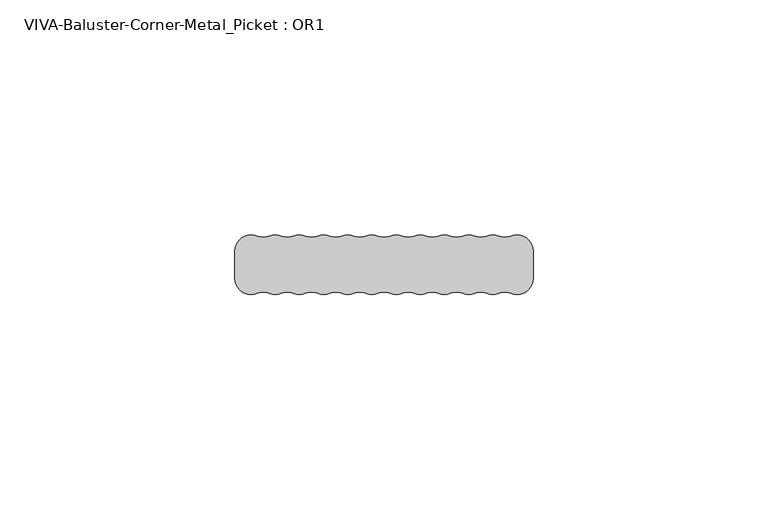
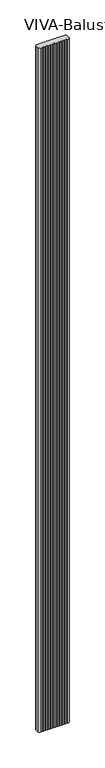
"""IFC4 building model written with IfcOpenShell, lengths in millimetres: railing geometry, VIVA-Baluster-Corner-Metal_Picket : OR1."""

import ifcopenshell
import ifcopenshell.guid

model = None  # the IFC model being written
_history = None  # IfcOwnerHistory: only IFC2X3 demands one
_inside = {}  # id of a spatial element -> (the spatial element, [elements in it])
_under = {}  # id of a project, library or spatial element -> (it, [spatial elements below it])
_declared = {}  # id of a project -> (the project, [libraries it declares])
_typed = {}  # id of a type object -> (the type object, [elements of that type])
_made_of = {}  # id of a material, layer set ... -> (it, [elements and type objects made of it])


def new_model(schema):
    """Start an empty IFC model of exactly this schema.

    Asked for "IFC4X3", IfcOpenShell would pick the latest addendum, in which some entities
    have other attributes; the version numbers below select the first issue.
    IFC2X3 requires an IfcOwnerHistory on every rooted entity: one is made here for all.
    """
    global model, _history
    if schema == "IFC4X3":
        model = ifcopenshell.file(schema_version=(4, 3, 0, 0))
    else:
        model = ifcopenshell.file(schema=schema)
    _inside.clear()
    _under.clear()
    _declared.clear()
    _typed.clear()
    _made_of.clear()
    _history = None
    if model.schema == "IFC2X3":
        org = make("IfcOrganization", Name="unknown")
        user = make(
            "IfcPersonAndOrganization",
            ThePerson=make("IfcPerson", FamilyName="unknown"),
            TheOrganization=org,
        )
        app = make(
            "IfcApplication",
            ApplicationDeveloper=org,
            Version="unknown",
            ApplicationFullName="unknown",
            ApplicationIdentifier="unknown",
        )
        _history = make(
            "IfcOwnerHistory",
            OwningUser=user,
            OwningApplication=app,
            ChangeAction="ADDED",
            CreationDate=0,
        )
    return model


def make(cls, **values):
    """One entity of the class cls with the attributes given. An attribute that is None is left unset."""
    return model.create_entity(
        cls, **{name: value for name, value in values.items() if value is not None}
    )


def rooted(cls, **values):
    """An entity with a GlobalId (a new one), such as an element, a storey or a relation."""
    return make(cls, GlobalId=ifcopenshell.guid.new(), OwnerHistory=_history, **values)


def si_unit(unit_type, name, prefix=None):
    """IfcSIUnit, for example si_unit("LENGTHUNIT", "METRE", prefix="MILLI")."""
    return make("IfcSIUnit", UnitType=unit_type, Prefix=prefix, Name=name)


def assignment(units):
    """IfcUnitAssignment: the units of a project."""
    return None if units is None else make("IfcUnitAssignment", Units=units)


def point(xyz):
    """IfcCartesianPoint."""
    return None if xyz is None else make("IfcCartesianPoint", Coordinates=xyz)


def direction(xyz):
    """IfcDirection."""
    return None if xyz is None else make("IfcDirection", DirectionRatios=xyz)


def frame(location, z_axis=None, x_axis=None):
    """IfcAxis2Placement3D, a coordinate frame: its origin and axes. An axis left out is left unset."""
    return make(
        "IfcAxis2Placement3D",
        Location=point(location),
        Axis=direction(z_axis),
        RefDirection=direction(x_axis),
    )


def origin():
    """The frame at (0, 0, 0) with its axes left unset."""
    return frame((0.0, 0.0, 0.0))


def place(relative_to, where):
    """IfcLocalPlacement: puts the frame where relative to a parent placement (None: the world)."""
    return make(
        "IfcLocalPlacement", PlacementRelTo=relative_to, RelativePlacement=where
    )


def context(
    kind, dimensions, precision=None, world=None, true_north=None, identifier=None
):
    """IfcGeometricRepresentationContext, for example the 3D "Model" context."""
    return make(
        "IfcGeometricRepresentationContext",
        ContextIdentifier=identifier,
        ContextType=kind,
        CoordinateSpaceDimension=dimensions,
        Precision=precision,
        WorldCoordinateSystem=world,
        TrueNorth=true_north,
    )


def project(units=None, contexts=None):
    """IfcProject with its units and contexts."""
    return rooted(
        "IfcProject",
        Name="project",
        RepresentationContexts=contexts,
        UnitsInContext=assignment(units),
    )


def spatial(cls, under=None, at=None, **own):
    """A site, building, storey or space (cls), placed at a placement, below another one or the project."""
    s = rooted(cls, ObjectPlacement=at, **own)
    if under is not None:
        _under.setdefault(under.id(), (under, []))[1].append(s)
    return s


def polyline(points):
    """IfcPolyline through the points."""
    return make("IfcPolyline", Points=[point(p) for p in points])


def circle_curve(where, radius):
    """IfcCircle in the frame where."""
    return make("IfcCircle", Position=where, Radius=radius)


def shape(context_of_items, identifier, shape_type, items):
    """IfcShapeRepresentation: the items that make up one representation, for example the "Body"."""
    return make(
        "IfcShapeRepresentation",
        ContextOfItems=context_of_items,
        RepresentationIdentifier=identifier,
        RepresentationType=shape_type,
        Items=items,
    )


def source(mapping_origin, context_of_items, identifier, shape_type, items):
    """IfcRepresentationMap: a shape defined once, which mapped items show again and again."""
    return make(
        "IfcRepresentationMap",
        MappingOrigin=mapping_origin,
        MappedRepresentation=shape(context_of_items, identifier, shape_type, items),
    )


def transform(
    local_origin,
    x_axis=None,
    y_axis=None,
    z_axis=None,
    scale=None,
    scale2=None,
    scale3=None,
    uniform=True,
):
    """IfcCartesianTransformationOperator3D, or its non-uniform kind. x_axis, y_axis, z_axis: its Axis1, 2, 3."""
    if uniform:
        return make(
            "IfcCartesianTransformationOperator3D",
            Axis1=direction(x_axis),
            Axis2=direction(y_axis),
            LocalOrigin=point(local_origin),
            Scale=scale,
            Axis3=direction(z_axis),
        )
    return make(
        "IfcCartesianTransformationOperator3DnonUniform",
        Axis1=direction(x_axis),
        Axis2=direction(y_axis),
        LocalOrigin=point(local_origin),
        Scale=scale,
        Axis3=direction(z_axis),
        Scale2=scale2,
        Scale3=scale3,
    )


def mapped(mapping_source, mapping_target):
    """IfcMappedItem: shows the shape of a source again, moved by a transform."""
    return make(
        "IfcMappedItem", MappingSource=mapping_source, MappingTarget=mapping_target
    )


def made_of(thing, what):
    """Note that an element or type object is made of a material, layer set ...; save() writes the relation."""
    if what is not None:
        _made_of.setdefault(what.id(), (what, []))[1].append(thing)
    return thing


def element(
    cls,
    number,
    at=None,
    inside=None,
    cuts=None,
    type_object=None,
    material=None,
    context=None,
    identifier="Body",
    shape_type=None,
    held_by="IfcProductDefinitionShape",
    body=None,
    shapes=None,
    **own,
):
    """One element of the class cls, such as IfcWall. Its Tag is "e" and its number.

    at: its placement. inside: the storey or other place that contains it. cuts: it is an
    opening in that element (IfcRelVoidsElement). A single representation is given by context,
    identifier, shape_type and body (its items); several are given by shapes. held_by: the class
    of the entity that holds the representations. save() writes the other relations.
    """
    e = rooted(cls, Tag="e%d" % number, ObjectPlacement=at, **own)
    if body is not None:
        shapes = [shape(context, identifier, shape_type, body)]
    if shapes is not None:
        e.Representation = make(held_by, Representations=shapes)
    if inside is not None:
        _inside.setdefault(inside.id(), (inside, []))[1].append(e)
    if cuts is not None:
        rooted(
            "IfcRelVoidsElement", RelatingBuildingElement=cuts, RelatedOpeningElement=e
        )
    if type_object is not None:
        _typed.setdefault(type_object.id(), (type_object, []))[1].append(e)
    return made_of(e, material)


def aggregate(whole, parts):
    """IfcRelAggregates: a whole, such as a stair, and the parts it consists of."""
    return rooted("IfcRelAggregates", RelatingObject=whole, RelatedObjects=parts)


def save(model, path):
    """Write the relations noted so far, then the file.

    IfcRelAggregates (storeys below a building ...), IfcRelContainedInSpatialStructure (elements
    in a storey), IfcRelDefinesByType, IfcRelAssociatesMaterial and IfcRelDeclares: one each for
    every whole, place, type object, material and project.
    """
    for whole, parts in _under.values():
        aggregate(whole, parts)
    for where, things in _inside.values():
        rooted(
            "IfcRelContainedInSpatialStructure",
            RelatedElements=things,
            RelatingStructure=where,
        )
    for kind, things in _typed.values():
        rooted("IfcRelDefinesByType", RelatedObjects=things, RelatingType=kind)
    for what, things in _made_of.values():
        rooted("IfcRelAssociatesMaterial", RelatedObjects=things, RelatingMaterial=what)
    for by, libraries in _declared.values():
        rooted("IfcRelDeclares", RelatingContext=by, RelatedDefinitions=libraries)
    model.write(path)


def plane_surface(at):
    """IfcPlane: the flat surface through the origin of the frame at, square to its z axis."""
    return make("IfcPlane", Position=at)


def cylinder_surface(at, radius):
    """IfcCylindricalSurface: all points at the distance radius from the z axis of the frame at."""
    return make("IfcCylindricalSurface", Position=at, Radius=radius)


def revolved_surface(curve, axis_point, axis_direction):
    """IfcSurfaceOfRevolution: the curve turned about the line through axis_point along axis_direction."""
    return make(
        "IfcSurfaceOfRevolution",
        SweptCurve=make("IfcArbitraryOpenProfileDef", ProfileType="CURVE", Curve=curve),
        AxisPosition=make("IfcAxis1Placement", Location=point(axis_point), Axis=direction(axis_direction)),
    )


def advanced_brep(points, edges, surfaces, faces):
    """IfcAdvancedBrep: a solid bounded by faces that lie on surfaces and meet in shared edges.

    An edge is (start, end): straight between two places in points (the first is 0);
    or (start, end, curve); or (start, end, curve, False) where it runs against its curve.
    A face is (place in surfaces, loops), or (place, loops, False) where it looks against
    its surface's normal. A loop lists edges by number (the first is 1), with a minus sign
    where the edge is run from its end to its start. The first loop is the outer one.
    """
    corners = [point(p) for p in points]
    vertices = [make("IfcVertexPoint", VertexGeometry=c) for c in corners]
    made = []
    for start, end, *more in edges:
        made.append(
            make(
                "IfcEdgeCurve",
                EdgeStart=vertices[start],
                EdgeEnd=vertices[end],
                EdgeGeometry=more[0] if more else make("IfcPolyline", Points=[corners[start], corners[end]]),
                SameSense=more[1] if len(more) > 1 else True,
            )
        )
    hull = []
    for where, loops, *sense in faces:
        bounds = []
        for j, loop in enumerate(loops):
            ring = [make("IfcOrientedEdge", EdgeElement=made[abs(k) - 1], Orientation=k > 0) for k in loop]
            bounds.append(
                make(
                    "IfcFaceOuterBound" if j == 0 else "IfcFaceBound",
                    Bound=make("IfcEdgeLoop", EdgeList=ring),
                    Orientation=True,
                )
            )
        hull.append(make("IfcAdvancedFace", Bounds=bounds, FaceSurface=surfaces[where], SameSense=sense[0] if sense else True))
    return make("IfcAdvancedBrep", Outer=make("IfcClosedShell", CfsFaces=hull))


def viva_baluster_corner_metal_picket_or1_133d1216(model_context):
    return source(origin(), model_context, "Body", "AdvancedBrep", [
        advanced_brep(
        [(51.9173652, 85.8424232, 1219.2), (49.3434933, 85.8424232, 1219.2), (46.7696213, 85.8424232, 1219.2), (44.1957493, 85.8424232, 1219.2), (41.6218774, 85.8424232, 1219.2), (39.0480054, 85.8424232, 1219.2), (36.4741335, 85.8424232, 1219.2), (33.9002615, 85.8424232, 1219.2), (31.3263895, 85.8424232, 1219.2), (28.7525176, 85.8424232, 1219.2), (26.1786456, 85.8424232, 1219.2), (23.6047737, 85.8424232, 1219.2), (21.0309017, 85.8424232, 1219.2), (18.4570297, 85.8424232, 1219.2), (15.8831578, 85.8424232, 1219.2), (13.3092858, 85.8424232, 1219.2), (10.7354139, 85.8424232, 1219.2), (8.1615419, 85.8424232, 1219.2), (5.5876699, 85.8424232, 1219.2), (3.013798, 85.8424232, 1219.2), (0.439926, 85.8424232, 1219.2), (-2.133946, 85.8424232, 1219.2), (-6.8582904, 82.6550148, 1219.2), (-6.8582904, 76.8298317, 1219.2), (-2.133946, 73.6424232, 1219.2), (0.439926, 73.6424232, 1219.2), (3.013798, 73.6424232, 1219.2), (5.5876699, 73.6424232, 1219.2), (8.1615419, 73.6424232, 1219.2), (10.7354139, 73.6424232, 1219.2), (13.3092858, 73.6424232, 1219.2), (15.8831578, 73.6424232, 1219.2), (18.4570297, 73.6424232, 1219.2), (21.0309017, 73.6424232, 1219.2), (23.6047737, 73.6424232, 1219.2), (26.1786456, 73.6424232, 1219.2), (28.7525176, 73.6424232, 1219.2), (31.3263895, 73.6424232, 1219.2), (33.9002615, 73.6424232, 1219.2), (36.4741335, 73.6424232, 1219.2), (39.0480054, 73.6424232, 1219.2), (41.6218774, 73.6424232, 1219.2), (44.1957493, 73.6424232, 1219.2), (46.7696213, 73.6424232, 1219.2), (49.3434933, 73.6424232, 1219.2), (51.9173652, 73.6424232, 1219.2), (56.6417096, 76.8298317, 1219.2), (56.6417096, 82.6550148, 1219.2), (51.9173652, 85.8424232, -245.8945017), (56.6417096, 82.6550148, -245.8945017), (56.6417096, 76.8298317, -245.8945017), (51.9173652, 73.6424232, -245.8945017), (49.3434933, 73.6424232, -245.8945017), (46.7696213, 73.6424232, -245.8945017), (44.1957493, 73.6424232, -245.8945017), (41.6218774, 73.6424232, -245.8945017), (39.0480054, 73.6424232, -245.8945017), (36.4741335, 73.6424232, -245.8945017), (33.9002615, 73.6424232, -245.8945017), (31.3263895, 73.6424232, -245.8945017), (28.7525176, 73.6424232, -245.8945017), (26.1786456, 73.6424232, -245.8945017), (23.6047737, 73.6424232, -245.8945017), (21.0309017, 73.6424232, -245.8945017), (18.4570297, 73.6424232, -245.8945017), (15.8831578, 73.6424232, -245.8945017), (13.3092858, 73.6424232, -245.8945017), (10.7354139, 73.6424232, -245.8945017), (8.1615419, 73.6424232, -245.8945017), (5.5876699, 73.6424232, -245.8945017), (3.013798, 73.6424232, -245.8945017), (0.439926, 73.6424232, -245.8945017), (-2.133946, 73.6424232, -245.8945017), (-6.8582904, 76.8298317, -245.8945017), (-6.8582904, 82.6550148, -245.8945017), (-2.133946, 85.8424232, -245.8945017), (0.439926, 85.8424232, -245.8945017), (3.013798, 85.8424232, -245.8945017), (5.5876699, 85.8424232, -245.8945017), (8.1615419, 85.8424232, -245.8945017), (10.7354139, 85.8424232, -245.8945017), (13.3092858, 85.8424232, -245.8945017), (15.8831578, 85.8424232, -245.8945017), (18.4570297, 85.8424232, -245.8945017), (21.0309017, 85.8424232, -245.8945017), (23.6047737, 85.8424232, -245.8945017), (26.1786456, 85.8424232, -245.8945017), (28.7525176, 85.8424232, -245.8945017), (31.3263895, 85.8424232, -245.8945017), (33.9002615, 85.8424232, -245.8945017), (36.4741335, 85.8424232, -245.8945017), (39.0480054, 85.8424232, -245.8945017), (41.6218774, 85.8424232, -245.8945017), (44.1957493, 85.8424232, -245.8945017), (46.7696213, 85.8424232, -245.8945017), (49.3434933, 85.8424232, -245.8945017)],
        [
            (0, 1, circle_curve(frame((50.6304292, 89.0298317, 1219.2), z_axis=(0.0, 0.0, -1.0), x_axis=(1.0, 0.0, 0.0)), 3.4374084)),
            (1, 2, circle_curve(frame((48.0565573, 82.6550148, 1219.2), z_axis=(0.0, 0.0, 1.0), x_axis=(1.0, 0.0, 0.0)), 3.4374084)),
            (2, 3, circle_curve(frame((45.4826853, 89.0298317, 1219.2), z_axis=(0.0, 0.0, -1.0), x_axis=(1.0, 0.0, 0.0)), 3.4374084)),
            (3, 4, circle_curve(frame((42.9088134, 82.6550148, 1219.2), z_axis=(0.0, 0.0, 1.0), x_axis=(1.0, 0.0, 0.0)), 3.4374084)),
            (4, 5, circle_curve(frame((40.3349414, 89.0298317, 1219.2), z_axis=(0.0, 0.0, -1.0), x_axis=(1.0, 0.0, 0.0)), 3.4374084)),
            (5, 6, circle_curve(frame((37.7610694, 82.6550148, 1219.2), z_axis=(0.0, 0.0, 1.0), x_axis=(1.0, 0.0, 0.0)), 3.4374084)),
            (6, 7, circle_curve(frame((35.1871975, 89.0298317, 1219.2), z_axis=(0.0, 0.0, -1.0), x_axis=(1.0, 0.0, 0.0)), 3.4374084)),
            (7, 8, circle_curve(frame((32.6133255, 82.6550148, 1219.2), z_axis=(0.0, 0.0, 1.0), x_axis=(1.0, 0.0, 0.0)), 3.4374084)),
            (8, 9, circle_curve(frame((30.0394536, 89.0298317, 1219.2), z_axis=(0.0, 0.0, -1.0), x_axis=(1.0, 0.0, 0.0)), 3.4374084)),
            (9, 10, circle_curve(frame((27.4655816, 82.6550148, 1219.2), z_axis=(0.0, 0.0, 1.0), x_axis=(1.0, 0.0, 0.0)), 3.4374084)),
            (10, 11, circle_curve(frame((24.8917096, 89.0298317, 1219.2), z_axis=(0.0, 0.0, -1.0), x_axis=(1.0, 0.0, 0.0)), 3.4374084)),
            (11, 12, circle_curve(frame((22.3178377, 82.6550148, 1219.2), z_axis=(0.0, 0.0, 1.0), x_axis=(1.0, 0.0, 0.0)), 3.4374084)),
            (12, 13, circle_curve(frame((19.7439657, 89.0298317, 1219.2), z_axis=(0.0, 0.0, -1.0), x_axis=(1.0, 0.0, 0.0)), 3.4374084)),
            (13, 14, circle_curve(frame((17.1700938, 82.6550148, 1219.2), z_axis=(0.0, 0.0, 1.0), x_axis=(1.0, 0.0, 0.0)), 3.4374084)),
            (14, 15, circle_curve(frame((14.5962218, 89.0298317, 1219.2), z_axis=(0.0, 0.0, -1.0), x_axis=(1.0, 0.0, 0.0)), 3.4374084)),
            (15, 16, circle_curve(frame((12.0223498, 82.6550148, 1219.2), z_axis=(0.0, 0.0, 1.0), x_axis=(1.0, 0.0, 0.0)), 3.4374084)),
            (16, 17, circle_curve(frame((9.4484779, 89.0298317, 1219.2), z_axis=(0.0, 0.0, -1.0), x_axis=(1.0, 0.0, 0.0)), 3.4374084)),
            (17, 18, circle_curve(frame((6.8746059, 82.6550148, 1219.2), z_axis=(0.0, 0.0, 1.0), x_axis=(1.0, 0.0, 0.0)), 3.4374084)),
            (18, 19, circle_curve(frame((4.3007339, 89.0298317, 1219.2), z_axis=(0.0, 0.0, -1.0), x_axis=(1.0, 0.0, 0.0)), 3.4374084)),
            (19, 20, circle_curve(frame((1.726862, 82.6550148, 1219.2), z_axis=(0.0, 0.0, 1.0), x_axis=(1.0, 0.0, 0.0)), 3.4374084)),
            (20, 21, circle_curve(frame((-0.84701, 89.0298317, 1219.2), z_axis=(0.0, 0.0, -1.0), x_axis=(1.0, 0.0, 0.0)), 3.4374084)),
            (21, 22, circle_curve(frame((-3.4208819, 82.6550148, 1219.2), z_axis=(0.0, 0.0, 1.0), x_axis=(1.0, 0.0, 0.0)), 3.4374084)),
            (22, 23),
            (23, 24, circle_curve(frame((-3.4208819, 76.8298317, 1219.2), z_axis=(0.0, 0.0, 1.0), x_axis=(1.0, 0.0, 0.0)), 3.4374084)),
            (24, 25, circle_curve(frame((-0.84701, 70.4550148, 1219.2), z_axis=(0.0, 0.0, -1.0), x_axis=(1.0, 0.0, 0.0)), 3.4374084)),
            (25, 26, circle_curve(frame((1.726862, 76.8298317, 1219.2), z_axis=(0.0, 0.0, 1.0), x_axis=(1.0, 0.0, 0.0)), 3.4374084)),
            (26, 27, circle_curve(frame((4.3007339, 70.4550148, 1219.2), z_axis=(0.0, 0.0, -1.0), x_axis=(1.0, 0.0, 0.0)), 3.4374084)),
            (27, 28, circle_curve(frame((6.8746059, 76.8298317, 1219.2), z_axis=(0.0, 0.0, 1.0), x_axis=(1.0, 0.0, 0.0)), 3.4374084)),
            (28, 29, circle_curve(frame((9.4484779, 70.4550148, 1219.2), z_axis=(0.0, 0.0, -1.0), x_axis=(1.0, 0.0, 0.0)), 3.4374084)),
            (29, 30, circle_curve(frame((12.0223498, 76.8298317, 1219.2), z_axis=(0.0, 0.0, 1.0), x_axis=(1.0, 0.0, 0.0)), 3.4374084)),
            (30, 31, circle_curve(frame((14.5962218, 70.4550148, 1219.2), z_axis=(0.0, 0.0, -1.0), x_axis=(1.0, 0.0, 0.0)), 3.4374084)),
            (31, 32, circle_curve(frame((17.1700938, 76.8298317, 1219.2), z_axis=(0.0, 0.0, 1.0), x_axis=(1.0, 0.0, 0.0)), 3.4374084)),
            (32, 33, circle_curve(frame((19.7439657, 70.4550148, 1219.2), z_axis=(0.0, 0.0, -1.0), x_axis=(1.0, 0.0, 0.0)), 3.4374084)),
            (33, 34, circle_curve(frame((22.3178377, 76.8298317, 1219.2), z_axis=(0.0, 0.0, 1.0), x_axis=(1.0, 0.0, 0.0)), 3.4374084)),
            (34, 35, circle_curve(frame((24.8917096, 70.4550148, 1219.2), z_axis=(0.0, 0.0, -1.0), x_axis=(1.0, 0.0, 0.0)), 3.4374084)),
            (35, 36, circle_curve(frame((27.4655816, 76.8298317, 1219.2), z_axis=(0.0, 0.0, 1.0), x_axis=(1.0, 0.0, 0.0)), 3.4374084)),
            (36, 37, circle_curve(frame((30.0394536, 70.4550148, 1219.2), z_axis=(0.0, 0.0, -1.0), x_axis=(1.0, 0.0, 0.0)), 3.4374084)),
            (37, 38, circle_curve(frame((32.6133255, 76.8298317, 1219.2), z_axis=(0.0, 0.0, 1.0), x_axis=(1.0, 0.0, 0.0)), 3.4374084)),
            (38, 39, circle_curve(frame((35.1871975, 70.4550148, 1219.2), z_axis=(0.0, 0.0, -1.0), x_axis=(1.0, 0.0, 0.0)), 3.4374084)),
            (39, 40, circle_curve(frame((37.7610694, 76.8298317, 1219.2), z_axis=(0.0, 0.0, 1.0), x_axis=(1.0, 0.0, 0.0)), 3.4374084)),
            (40, 41, circle_curve(frame((40.3349414, 70.4550148, 1219.2), z_axis=(0.0, 0.0, -1.0), x_axis=(1.0, 0.0, 0.0)), 3.4374084)),
            (41, 42, circle_curve(frame((42.9088134, 76.8298317, 1219.2), z_axis=(0.0, 0.0, 1.0), x_axis=(1.0, 0.0, 0.0)), 3.4374084)),
            (42, 43, circle_curve(frame((45.4826853, 70.4550148, 1219.2), z_axis=(0.0, 0.0, -1.0), x_axis=(1.0, 0.0, 0.0)), 3.4374084)),
            (43, 44, circle_curve(frame((48.0565573, 76.8298317, 1219.2), z_axis=(0.0, 0.0, 1.0), x_axis=(1.0, 0.0, 0.0)), 3.4374084)),
            (44, 45, circle_curve(frame((50.6304292, 70.4550148, 1219.2), z_axis=(0.0, 0.0, -1.0), x_axis=(1.0, 0.0, 0.0)), 3.4374084)),
            (45, 46, circle_curve(frame((53.2043012, 76.8298317, 1219.2), z_axis=(0.0, 0.0, 1.0), x_axis=(1.0, 0.0, 0.0)), 3.4374084)),
            (46, 47),
            (47, 0, circle_curve(frame((53.2043012, 82.6550148, 1219.2), z_axis=(0.0, 0.0, 1.0), x_axis=(1.0, 0.0, 0.0)), 3.4374084)),
            (48, 49, circle_curve(frame((53.2043012, 82.6550148, -245.8945017), z_axis=(0.0, 0.0, -1.0), x_axis=(1.0, 0.0, 0.0)), 3.4374084)),
            (49, 50),
            (50, 51, circle_curve(frame((53.2043012, 76.8298317, -245.8945017), z_axis=(0.0, 0.0, -1.0), x_axis=(1.0, 0.0, 0.0)), 3.4374084)),
            (51, 52, circle_curve(frame((50.6304292, 70.4550148, -245.8945017), z_axis=(0.0, 0.0, 1.0), x_axis=(1.0, 0.0, 0.0)), 3.4374084)),
            (52, 53, circle_curve(frame((48.0565573, 76.8298317, -245.8945017), z_axis=(0.0, 0.0, -1.0), x_axis=(1.0, 0.0, 0.0)), 3.4374084)),
            (53, 54, circle_curve(frame((45.4826853, 70.4550148, -245.8945017), z_axis=(0.0, 0.0, 1.0), x_axis=(1.0, 0.0, 0.0)), 3.4374084)),
            (54, 55, circle_curve(frame((42.9088134, 76.8298317, -245.8945017), z_axis=(0.0, 0.0, -1.0), x_axis=(1.0, 0.0, 0.0)), 3.4374084)),
            (55, 56, circle_curve(frame((40.3349414, 70.4550148, -245.8945017), z_axis=(0.0, 0.0, 1.0), x_axis=(1.0, 0.0, 0.0)), 3.4374084)),
            (56, 57, circle_curve(frame((37.7610694, 76.8298317, -245.8945017), z_axis=(0.0, 0.0, -1.0), x_axis=(1.0, 0.0, 0.0)), 3.4374084)),
            (57, 58, circle_curve(frame((35.1871975, 70.4550148, -245.8945017), z_axis=(0.0, 0.0, 1.0), x_axis=(1.0, 0.0, 0.0)), 3.4374084)),
            (58, 59, circle_curve(frame((32.6133255, 76.8298317, -245.8945017), z_axis=(0.0, 0.0, -1.0), x_axis=(1.0, 0.0, 0.0)), 3.4374084)),
            (59, 60, circle_curve(frame((30.0394536, 70.4550148, -245.8945017), z_axis=(0.0, 0.0, 1.0), x_axis=(1.0, 0.0, 0.0)), 3.4374084)),
            (60, 61, circle_curve(frame((27.4655816, 76.8298317, -245.8945017), z_axis=(0.0, 0.0, -1.0), x_axis=(1.0, 0.0, 0.0)), 3.4374084)),
            (61, 62, circle_curve(frame((24.8917096, 70.4550148, -245.8945017), z_axis=(0.0, 0.0, 1.0), x_axis=(1.0, 0.0, 0.0)), 3.4374084)),
            (62, 63, circle_curve(frame((22.3178377, 76.8298317, -245.8945017), z_axis=(0.0, 0.0, -1.0), x_axis=(1.0, 0.0, 0.0)), 3.4374084)),
            (63, 64, circle_curve(frame((19.7439657, 70.4550148, -245.8945017), z_axis=(0.0, 0.0, 1.0), x_axis=(1.0, 0.0, 0.0)), 3.4374084)),
            (64, 65, circle_curve(frame((17.1700938, 76.8298317, -245.8945017), z_axis=(0.0, 0.0, -1.0), x_axis=(1.0, 0.0, 0.0)), 3.4374084)),
            (65, 66, circle_curve(frame((14.5962218, 70.4550148, -245.8945017), z_axis=(0.0, 0.0, 1.0), x_axis=(1.0, 0.0, 0.0)), 3.4374084)),
            (66, 67, circle_curve(frame((12.0223498, 76.8298317, -245.8945017), z_axis=(0.0, 0.0, -1.0), x_axis=(1.0, 0.0, 0.0)), 3.4374084)),
            (67, 68, circle_curve(frame((9.4484779, 70.4550148, -245.8945017), z_axis=(0.0, 0.0, 1.0), x_axis=(1.0, 0.0, 0.0)), 3.4374084)),
            (68, 69, circle_curve(frame((6.8746059, 76.8298317, -245.8945017), z_axis=(0.0, 0.0, -1.0), x_axis=(1.0, 0.0, 0.0)), 3.4374084)),
            (69, 70, circle_curve(frame((4.3007339, 70.4550148, -245.8945017), z_axis=(0.0, 0.0, 1.0), x_axis=(1.0, 0.0, 0.0)), 3.4374084)),
            (70, 71, circle_curve(frame((1.726862, 76.8298317, -245.8945017), z_axis=(0.0, 0.0, -1.0), x_axis=(1.0, 0.0, 0.0)), 3.4374084)),
            (71, 72, circle_curve(frame((-0.84701, 70.4550148, -245.8945017), z_axis=(0.0, 0.0, 1.0), x_axis=(1.0, 0.0, 0.0)), 3.4374084)),
            (72, 73, circle_curve(frame((-3.4208819, 76.8298317, -245.8945017), z_axis=(0.0, 0.0, -1.0), x_axis=(1.0, 0.0, 0.0)), 3.4374084)),
            (73, 74),
            (74, 75, circle_curve(frame((-3.4208819, 82.6550148, -245.8945017), z_axis=(0.0, 0.0, -1.0), x_axis=(1.0, 0.0, 0.0)), 3.4374084)),
            (75, 76, circle_curve(frame((-0.84701, 89.0298317, -245.8945017), z_axis=(0.0, 0.0, 1.0), x_axis=(1.0, 0.0, 0.0)), 3.4374084)),
            (76, 77, circle_curve(frame((1.726862, 82.6550148, -245.8945017), z_axis=(0.0, 0.0, -1.0), x_axis=(1.0, 0.0, 0.0)), 3.4374084)),
            (77, 78, circle_curve(frame((4.3007339, 89.0298317, -245.8945017), z_axis=(0.0, 0.0, 1.0), x_axis=(1.0, 0.0, 0.0)), 3.4374084)),
            (78, 79, circle_curve(frame((6.8746059, 82.6550148, -245.8945017), z_axis=(0.0, 0.0, -1.0), x_axis=(1.0, 0.0, 0.0)), 3.4374084)),
            (79, 80, circle_curve(frame((9.4484779, 89.0298317, -245.8945017), z_axis=(0.0, 0.0, 1.0), x_axis=(1.0, 0.0, 0.0)), 3.4374084)),
            (80, 81, circle_curve(frame((12.0223498, 82.6550148, -245.8945017), z_axis=(0.0, 0.0, -1.0), x_axis=(1.0, 0.0, 0.0)), 3.4374084)),
            (81, 82, circle_curve(frame((14.5962218, 89.0298317, -245.8945017), z_axis=(0.0, 0.0, 1.0), x_axis=(1.0, 0.0, 0.0)), 3.4374084)),
            (82, 83, circle_curve(frame((17.1700938, 82.6550148, -245.8945017), z_axis=(0.0, 0.0, -1.0), x_axis=(1.0, 0.0, 0.0)), 3.4374084)),
            (83, 84, circle_curve(frame((19.7439657, 89.0298317, -245.8945017), z_axis=(0.0, 0.0, 1.0), x_axis=(1.0, 0.0, 0.0)), 3.4374084)),
            (84, 85, circle_curve(frame((22.3178377, 82.6550148, -245.8945017), z_axis=(0.0, 0.0, -1.0), x_axis=(1.0, 0.0, 0.0)), 3.4374084)),
            (85, 86, circle_curve(frame((24.8917096, 89.0298317, -245.8945017), z_axis=(0.0, 0.0, 1.0), x_axis=(1.0, 0.0, 0.0)), 3.4374084)),
            (86, 87, circle_curve(frame((27.4655816, 82.6550148, -245.8945017), z_axis=(0.0, 0.0, -1.0), x_axis=(1.0, 0.0, 0.0)), 3.4374084)),
            (87, 88, circle_curve(frame((30.0394536, 89.0298317, -245.8945017), z_axis=(0.0, 0.0, 1.0), x_axis=(1.0, 0.0, 0.0)), 3.4374084)),
            (88, 89, circle_curve(frame((32.6133255, 82.6550148, -245.8945017), z_axis=(0.0, 0.0, -1.0), x_axis=(1.0, 0.0, 0.0)), 3.4374084)),
            (89, 90, circle_curve(frame((35.1871975, 89.0298317, -245.8945017), z_axis=(0.0, 0.0, 1.0), x_axis=(1.0, 0.0, 0.0)), 3.4374084)),
            (90, 91, circle_curve(frame((37.7610694, 82.6550148, -245.8945017), z_axis=(0.0, 0.0, -1.0), x_axis=(1.0, 0.0, 0.0)), 3.4374084)),
            (91, 92, circle_curve(frame((40.3349414, 89.0298317, -245.8945017), z_axis=(0.0, 0.0, 1.0), x_axis=(1.0, 0.0, 0.0)), 3.4374084)),
            (92, 93, circle_curve(frame((42.9088134, 82.6550148, -245.8945017), z_axis=(0.0, 0.0, -1.0), x_axis=(1.0, 0.0, 0.0)), 3.4374084)),
            (93, 94, circle_curve(frame((45.4826853, 89.0298317, -245.8945017), z_axis=(0.0, 0.0, 1.0), x_axis=(1.0, 0.0, 0.0)), 3.4374084)),
            (94, 95, circle_curve(frame((48.0565573, 82.6550148, -245.8945017), z_axis=(0.0, 0.0, -1.0), x_axis=(1.0, 0.0, 0.0)), 3.4374084)),
            (95, 48, circle_curve(frame((50.6304292, 89.0298317, -245.8945017), z_axis=(0.0, 0.0, 1.0), x_axis=(1.0, 0.0, 0.0)), 3.4374084)),
            (0, 48),
            (95, 1),
            (94, 2),
            (93, 3),
            (92, 4),
            (91, 5),
            (90, 6),
            (89, 7),
            (88, 8),
            (87, 9),
            (86, 10),
            (85, 11),
            (84, 12),
            (83, 13),
            (82, 14),
            (81, 15),
            (80, 16),
            (79, 17),
            (78, 18),
            (77, 19),
            (76, 20),
            (75, 21),
            (74, 22),
            (73, 23),
            (72, 24),
            (71, 25),
            (70, 26),
            (69, 27),
            (68, 28),
            (67, 29),
            (66, 30),
            (65, 31),
            (64, 32),
            (63, 33),
            (62, 34),
            (61, 35),
            (60, 36),
            (59, 37),
            (58, 38),
            (57, 39),
            (56, 40),
            (55, 41),
            (54, 42),
            (53, 43),
            (52, 44),
            (51, 45),
            (50, 46),
            (49, 47),
        ],
        [
            plane_surface(frame((54.0678377, 89.0298317, 1219.2), z_axis=(0.0, 0.0, 1.0), x_axis=(0.0, -1.0, 0.0))),
            plane_surface(frame((54.0678377, 89.0298317, -245.8945017), z_axis=(0.0, 0.0, -1.0), x_axis=(0.0, 1.0, 0.0))),
            revolved_surface(polyline([(54.067837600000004, 89.0298317, -245.8945017), (54.067837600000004, 89.0298317, 1219.2)]), (50.6304292, 89.0298317, -245.8945017), (0.0, 0.0, -1.0)),
            cylinder_surface(frame((48.0565573, 82.6550148, -245.8945017), z_axis=(0.0, 0.0, 1.0), x_axis=(1.0, 0.0, 0.0)), 3.4374084),
            revolved_surface(polyline([(48.9200937, 89.0298317, -245.8945017), (48.9200937, 89.0298317, 1219.2)]), (45.4826853, 89.0298317, -245.8945017), (0.0, 0.0, -1.0)),
            cylinder_surface(frame((42.9088134, 82.6550148, -245.8945017), z_axis=(0.0, 0.0, 1.0), x_axis=(1.0, 0.0, 0.0)), 3.4374084),
            revolved_surface(polyline([(43.7723498, 89.0298317, -245.8945017), (43.7723498, 89.0298317, 1219.2)]), (40.3349414, 89.0298317, -245.8945017), (0.0, 0.0, -1.0)),
            cylinder_surface(frame((37.7610694, 82.6550148, -245.8945017), z_axis=(0.0, 0.0, 1.0), x_axis=(1.0, 0.0, 0.0)), 3.4374084),
            revolved_surface(polyline([(38.624605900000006, 89.0298317, -245.8945017), (38.624605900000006, 89.0298317, 1219.2)]), (35.1871975, 89.0298317, -245.8945017), (0.0, 0.0, -1.0)),
            cylinder_surface(frame((32.6133255, 82.6550148, -245.8945017), z_axis=(0.0, 0.0, 1.0), x_axis=(1.0, 0.0, 0.0)), 3.4374084),
            revolved_surface(polyline([(33.476862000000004, 89.0298317, -245.8945017), (33.476862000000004, 89.0298317, 1219.2)]), (30.0394536, 89.0298317, -245.8945017), (0.0, 0.0, -1.0)),
            cylinder_surface(frame((27.4655816, 82.6550148, -245.8945017), z_axis=(0.0, 0.0, 1.0), x_axis=(1.0, 0.0, 0.0)), 3.4374084),
            revolved_surface(polyline([(28.329117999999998, 89.0298317, -245.8945017), (28.329117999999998, 89.0298317, 1219.2)]), (24.8917096, 89.0298317, -245.8945017), (0.0, 0.0, -1.0)),
            cylinder_surface(frame((22.3178377, 82.6550148, -245.8945017), z_axis=(0.0, 0.0, 1.0), x_axis=(1.0, 0.0, 0.0)), 3.4374084),
            revolved_surface(polyline([(23.1813741, 89.0298317, -245.8945017), (23.1813741, 89.0298317, 1219.2)]), (19.7439657, 89.0298317, -245.8945017), (0.0, 0.0, -1.0)),
            cylinder_surface(frame((17.1700938, 82.6550148, -245.8945017), z_axis=(0.0, 0.0, 1.0), x_axis=(1.0, 0.0, 0.0)), 3.4374084),
            revolved_surface(polyline([(18.0336302, 89.0298317, -245.8945017), (18.0336302, 89.0298317, 1219.2)]), (14.5962218, 89.0298317, -245.8945017), (0.0, 0.0, -1.0)),
            cylinder_surface(frame((12.0223498, 82.6550148, -245.8945017), z_axis=(0.0, 0.0, 1.0), x_axis=(1.0, 0.0, 0.0)), 3.4374084),
            revolved_surface(polyline([(12.8858863, 89.0298317, -245.8945017), (12.8858863, 89.0298317, 1219.2)]), (9.4484779, 89.0298317, -245.8945017), (0.0, 0.0, -1.0)),
            cylinder_surface(frame((6.8746059, 82.6550148, -245.8945017), z_axis=(0.0, 0.0, 1.0), x_axis=(1.0, 0.0, 0.0)), 3.4374084),
            revolved_surface(polyline([(7.7381423, 89.0298317, -245.8945017), (7.7381423, 89.0298317, 1219.2)]), (4.3007339, 89.0298317, -245.8945017), (0.0, 0.0, -1.0)),
            cylinder_surface(frame((1.726862, 82.6550148, -245.8945017), z_axis=(0.0, 0.0, 1.0), x_axis=(1.0, 0.0, 0.0)), 3.4374084),
            revolved_surface(polyline([(2.5903983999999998, 89.0298317, -245.8945017), (2.5903983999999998, 89.0298317, 1219.2)]), (-0.84701, 89.0298317, -245.8945017), (0.0, 0.0, -1.0)),
            cylinder_surface(frame((-3.4208819, 82.6550148, -245.8945017), z_axis=(0.0, 0.0, 1.0), x_axis=(1.0, 0.0, 0.0)), 3.4374084),
            plane_surface(frame((-6.8582904, 82.6550148, 1219.2), z_axis=(-1.0, -1.918575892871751e-11, 0.0), x_axis=(0.0, 0.0, -1.0))),
            cylinder_surface(frame((-3.4208819, 76.8298317, -245.8945017), z_axis=(0.0, 0.0, 1.0), x_axis=(1.0, 0.0, 0.0)), 3.4374084),
            revolved_surface(polyline([(2.5903983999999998, 70.4550148, -245.8945017), (2.5903983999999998, 70.4550148, 1219.2)]), (-0.84701, 70.4550148, -245.8945017), (0.0, 0.0, -1.0)),
            cylinder_surface(frame((1.726862, 76.8298317, -245.8945017), z_axis=(0.0, 0.0, 1.0), x_axis=(1.0, 0.0, 0.0)), 3.4374084),
            revolved_surface(polyline([(7.7381423, 70.4550148, -245.8945017), (7.7381423, 70.4550148, 1219.2)]), (4.3007339, 70.4550148, -245.8945017), (0.0, 0.0, -1.0)),
            cylinder_surface(frame((6.8746059, 76.8298317, -245.8945017), z_axis=(0.0, 0.0, 1.0), x_axis=(1.0, 0.0, 0.0)), 3.4374084),
            revolved_surface(polyline([(12.8858863, 70.4550148, -245.8945017), (12.8858863, 70.4550148, 1219.2)]), (9.4484779, 70.4550148, -245.8945017), (0.0, 0.0, -1.0)),
            cylinder_surface(frame((12.0223498, 76.8298317, -245.8945017), z_axis=(0.0, 0.0, 1.0), x_axis=(1.0, 0.0, 0.0)), 3.4374084),
            revolved_surface(polyline([(18.0336302, 70.4550148, -245.8945017), (18.0336302, 70.4550148, 1219.2)]), (14.5962218, 70.4550148, -245.8945017), (0.0, 0.0, -1.0)),
            cylinder_surface(frame((17.1700938, 76.8298317, -245.8945017), z_axis=(0.0, 0.0, 1.0), x_axis=(1.0, 0.0, 0.0)), 3.4374084),
            revolved_surface(polyline([(23.1813741, 70.4550148, -245.8945017), (23.1813741, 70.4550148, 1219.2)]), (19.7439657, 70.4550148, -245.8945017), (0.0, 0.0, -1.0)),
            cylinder_surface(frame((22.3178377, 76.8298317, -245.8945017), z_axis=(0.0, 0.0, 1.0), x_axis=(1.0, 0.0, 0.0)), 3.4374084),
            revolved_surface(polyline([(28.329117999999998, 70.4550148, -245.8945017), (28.329117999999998, 70.4550148, 1219.2)]), (24.8917096, 70.4550148, -245.8945017), (0.0, 0.0, -1.0)),
            cylinder_surface(frame((27.4655816, 76.8298317, -245.8945017), z_axis=(0.0, 0.0, 1.0), x_axis=(1.0, 0.0, 0.0)), 3.4374084),
            revolved_surface(polyline([(33.476862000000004, 70.4550148, -245.8945017), (33.476862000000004, 70.4550148, 1219.2)]), (30.0394536, 70.4550148, -245.8945017), (0.0, 0.0, -1.0)),
            cylinder_surface(frame((32.6133255, 76.8298317, -245.8945017), z_axis=(0.0, 0.0, 1.0), x_axis=(1.0, 0.0, 0.0)), 3.4374084),
            revolved_surface(polyline([(38.624605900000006, 70.4550148, -245.8945017), (38.624605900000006, 70.4550148, 1219.2)]), (35.1871975, 70.4550148, -245.8945017), (0.0, 0.0, -1.0)),
            cylinder_surface(frame((37.7610694, 76.8298317, -245.8945017), z_axis=(0.0, 0.0, 1.0), x_axis=(1.0, 0.0, 0.0)), 3.4374084),
            revolved_surface(polyline([(43.7723498, 70.4550148, -245.8945017), (43.7723498, 70.4550148, 1219.2)]), (40.3349414, 70.4550148, -245.8945017), (0.0, 0.0, -1.0)),
            cylinder_surface(frame((42.9088134, 76.8298317, -245.8945017), z_axis=(0.0, 0.0, 1.0), x_axis=(1.0, 0.0, 0.0)), 3.4374084),
            revolved_surface(polyline([(48.9200937, 70.4550148, -245.8945017), (48.9200937, 70.4550148, 1219.2)]), (45.4826853, 70.4550148, -245.8945017), (0.0, 0.0, -1.0)),
            cylinder_surface(frame((48.0565573, 76.8298317, -245.8945017), z_axis=(0.0, 0.0, 1.0), x_axis=(1.0, 0.0, 0.0)), 3.4374084),
            revolved_surface(polyline([(54.067837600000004, 70.4550148, -245.8945017), (54.067837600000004, 70.4550148, 1219.2)]), (50.6304292, 70.4550148, -245.8945017), (0.0, 0.0, -1.0)),
            cylinder_surface(frame((53.2043012, 76.8298317, -245.8945017), z_axis=(0.0, 0.0, 1.0), x_axis=(1.0, 0.0, 0.0)), 3.4374084),
            plane_surface(frame((56.6417096, 76.8298317, 1219.2), z_axis=(1.0, -1.9944402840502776e-11, 0.0), x_axis=(0.0, 0.0, -1.0))),
            cylinder_surface(frame((53.2043012, 82.6550148, -245.8945017), z_axis=(0.0, 0.0, 1.0), x_axis=(1.0, 0.0, 0.0)), 3.4374084),
        ],
        [
            (0, [[1, 2, 3, 4, 5, 6, 7, 8, 9, 10, 11, 12, 13, 14, 15, 16, 17, 18, 19, 20, 21, 22, 23, 24, 25, 26, 27, 28, 29, 30, 31, 32, 33, 34, 35, 36, 37, 38, 39, 40, 41, 42, 43, 44, 45, 46, 47, 48]]),
            (1, [[49, 50, 51, 52, 53, 54, 55, 56, 57, 58, 59, 60, 61, 62, 63, 64, 65, 66, 67, 68, 69, 70, 71, 72, 73, 74, 75, 76, 77, 78, 79, 80, 81, 82, 83, 84, 85, 86, 87, 88, 89, 90, 91, 92, 93, 94, 95, 96]]),
            (2, [[-1, 97, -96, 98]]),
            (3, [[-2, -98, -95, 99]]),
            (4, [[-3, -99, -94, 100]]),
            (5, [[-4, -100, -93, 101]]),
            (6, [[-5, -101, -92, 102]]),
            (7, [[-6, -102, -91, 103]]),
            (8, [[-7, -103, -90, 104]]),
            (9, [[-8, -104, -89, 105]]),
            (10, [[-9, -105, -88, 106]]),
            (11, [[-10, -106, -87, 107]]),
            (12, [[-11, -107, -86, 108]]),
            (13, [[-12, -108, -85, 109]]),
            (14, [[-13, -109, -84, 110]]),
            (15, [[-14, -110, -83, 111]]),
            (16, [[-15, -111, -82, 112]]),
            (17, [[-16, -112, -81, 113]]),
            (18, [[-17, -113, -80, 114]]),
            (19, [[-18, -114, -79, 115]]),
            (20, [[-19, -115, -78, 116]]),
            (21, [[-20, -116, -77, 117]]),
            (22, [[-21, -117, -76, 118]]),
            (23, [[-22, -118, -75, 119]]),
            (24, [[-23, -119, -74, 120]]),
            (25, [[-24, -120, -73, 121]]),
            (26, [[-25, -121, -72, 122]]),
            (27, [[-26, -122, -71, 123]]),
            (28, [[-27, -123, -70, 124]]),
            (29, [[-28, -124, -69, 125]]),
            (30, [[-29, -125, -68, 126]]),
            (31, [[-30, -126, -67, 127]]),
            (32, [[-31, -127, -66, 128]]),
            (33, [[-32, -128, -65, 129]]),
            (34, [[-33, -129, -64, 130]]),
            (35, [[-34, -130, -63, 131]]),
            (36, [[-35, -131, -62, 132]]),
            (37, [[-36, -132, -61, 133]]),
            (38, [[-37, -133, -60, 134]]),
            (39, [[-38, -134, -59, 135]]),
            (40, [[-39, -135, -58, 136]]),
            (41, [[-40, -136, -57, 137]]),
            (42, [[-41, -137, -56, 138]]),
            (43, [[-42, -138, -55, 139]]),
            (44, [[-43, -139, -54, 140]]),
            (45, [[-44, -140, -53, 141]]),
            (46, [[-45, -141, -52, 142]]),
            (47, [[-46, -142, -51, 143]]),
            (48, [[-47, -143, -50, 144]]),
            (49, [[-48, -144, -49, -97]]),
        ],
    ),
    ])


if __name__ == "__main__":
    model = new_model("IFC4")
    model_context = context("Model", 3, world=origin())
    ifc_project = project(units=[si_unit("LENGTHUNIT", "METRE", prefix="MILLI")], contexts=[model_context])
    site = spatial("IfcSite", under=ifc_project)
    building = spatial("IfcBuilding", under=site)
    placement = place(None, origin())
    viva_baluster_corner_metal_picket_or1_shape = viva_baluster_corner_metal_picket_or1_133d1216(model_context)
    element("IfcRailing", 1, ObjectType="VIVA-Baluster-Corner-Metal_Picket : OR1", at=placement, inside=building, context=model_context, shape_type="MappedRepresentation", body=[
        mapped(viva_baluster_corner_metal_picket_or1_shape, transform((0.0, 0.0, 0.0), x_axis=(1.0, 0.0, 0.0), y_axis=(0.0, 1.0, 0.0), z_axis=(0.0, 0.0, 1.0))),
    ])
    save(model, "model.ifc")
